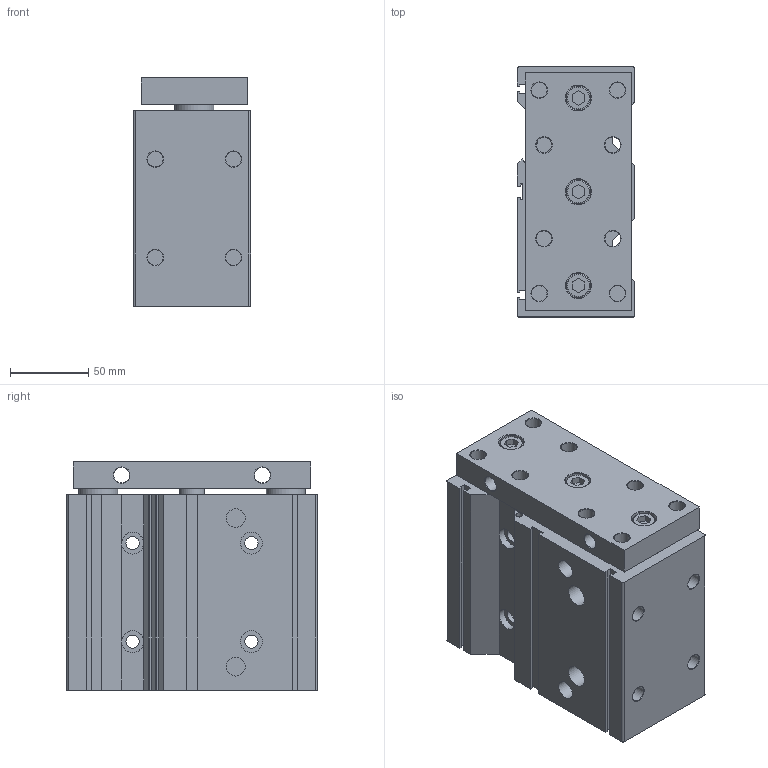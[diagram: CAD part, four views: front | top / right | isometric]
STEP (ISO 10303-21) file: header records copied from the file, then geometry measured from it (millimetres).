
FILE_DESCRIPTION((''),'2;1');
FILE_NAME('I:\3D電子目錄\氣缸\TB(U)\TB(U)63\TB(U)63\TB(U)63x75.stp','2007-08-06T09:29:16',('Administrator'),(''),'Autodesk Inventor 2008','Autodesk Inventor 2008','');
FILE_SCHEMA(('AUTOMOTIVE_DESIGN { 1 0 10303 214 1 1 1 1 }'));
Length unit declared in the file: millimetre
Products named in the file (1): TB(U)63X75
Bounding box: 75 x 160 x 146 mm (x, y, z)
Volume: 1463719.1 mm3; surface area: 141369.1 mm2
Topology: 1 solids, 1 shells, 206 faces, 462 edges, 294 vertices
Faces by surface type: plane 106, cylinder 52, cone 37, bspline 8, torus 3
Full cylindrical faces by diameter (mm): 8.5 x4, 10 x22, 12 x2, 14 x4, 15 x3, 16 x4, 25 x4, 32 x2, 60 x1
Entity records: 5380 total; most frequent: CARTESIAN_POINT 949, DIRECTION 924, ORIENTED_EDGE 740, EDGE_CURVE 370, EDGE_LOOP 364, AXIS2_PLACEMENT_3D 355, VERTEX_POINT 292, VECTOR 214
